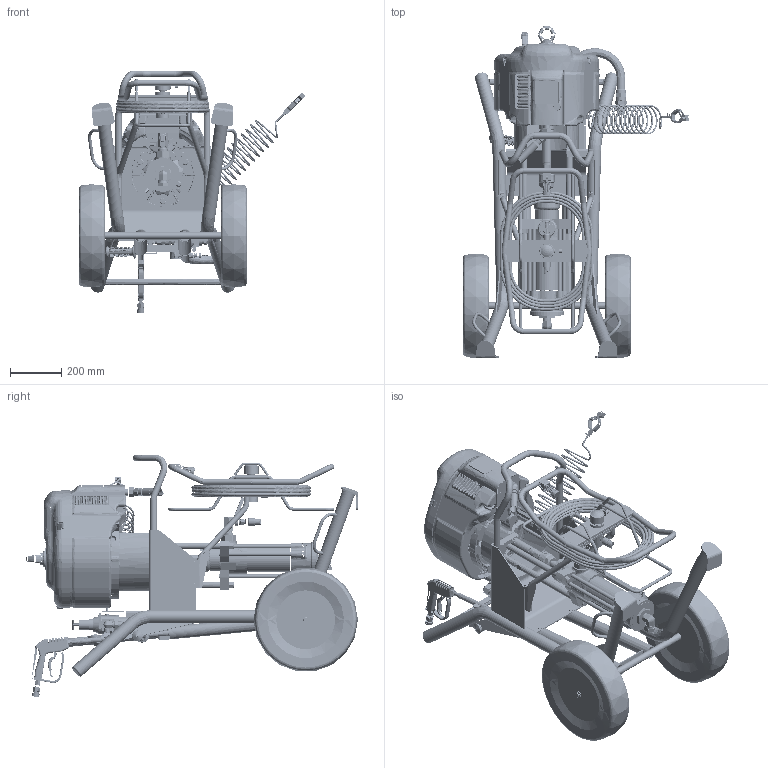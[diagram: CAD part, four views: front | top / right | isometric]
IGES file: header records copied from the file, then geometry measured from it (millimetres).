
Start section:  PTC IGES file: 24w473-en-h.igs
Global section: file name: 24w473-en-h.igs; native system: Creo Parametric by PTC Inc.; preprocessor: 2021072; author: qtmwp1; organization: Unknown; date: 20220214.115026; units: inch
Bounding box: 881.08 x 1291.58 x 944.88 mm (x, y, z)
Surface area: 7862433.4 mm2 (no closed solid volume)
Topology: 0 solids, 0 shells, 6340 faces, 37741 edges, 37722 vertices
Faces by surface type: revolution 3512, bspline 2816, extrusion 12
